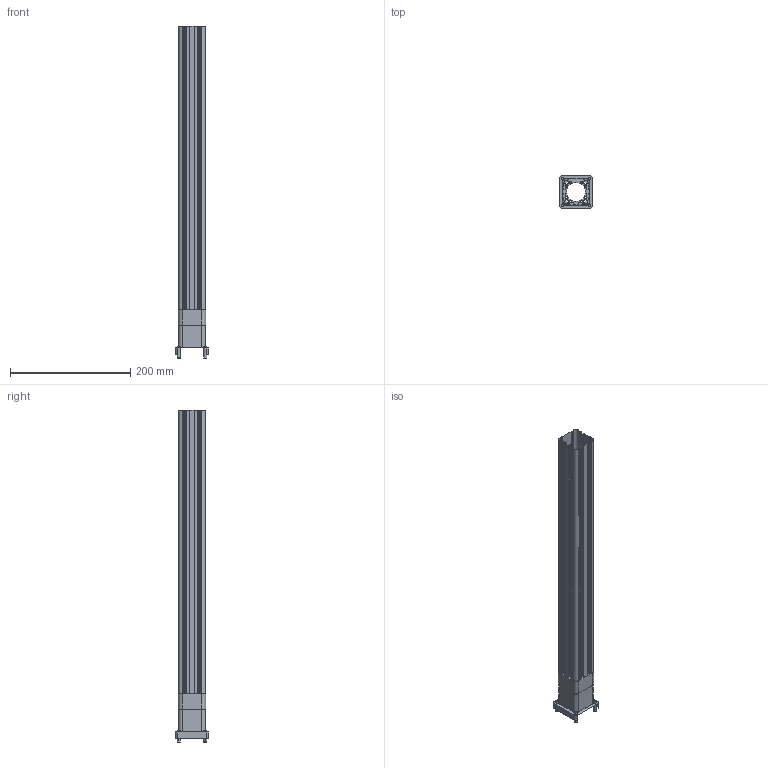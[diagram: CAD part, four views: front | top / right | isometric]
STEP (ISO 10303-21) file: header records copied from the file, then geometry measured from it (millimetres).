
FILE_DESCRIPTION (( 'STEP AP214' ), '1' );
FILE_NAME ('Rockwell Automation-$PARTNUMBER.STEP', '2015-07-10T12:45:10', ( 'Windows User' ), ( '' ), 'SwSTEP 2.0', 'SolidWorks 2015', '' );
FILE_SCHEMA (( 'AUTOMOTIVE_DESIGN' ));
Length unit declared in the file: millimetre
Products named in the file (1): Rockwell Automation-$PARTNUMBER
Bounding box: 55 x 55 x 552.65 mm (x, y, z)
Surface area: 129043.6 mm2 (no closed solid volume)
Topology: 0 solids, 7 shells, 183 faces, 596 edges, 420 vertices
Faces by surface type: cylinder 90, plane 81, cone 12
Entity records: 8544 total; most frequent: DIRECTION 1208, CARTESIAN_POINT 1200, ORIENTED_EDGE 934, EDGE_CURVE 596, AXIS2_PLACEMENT_3D 428, VERTEX_POINT 420, LINE 352, VECTOR 352
